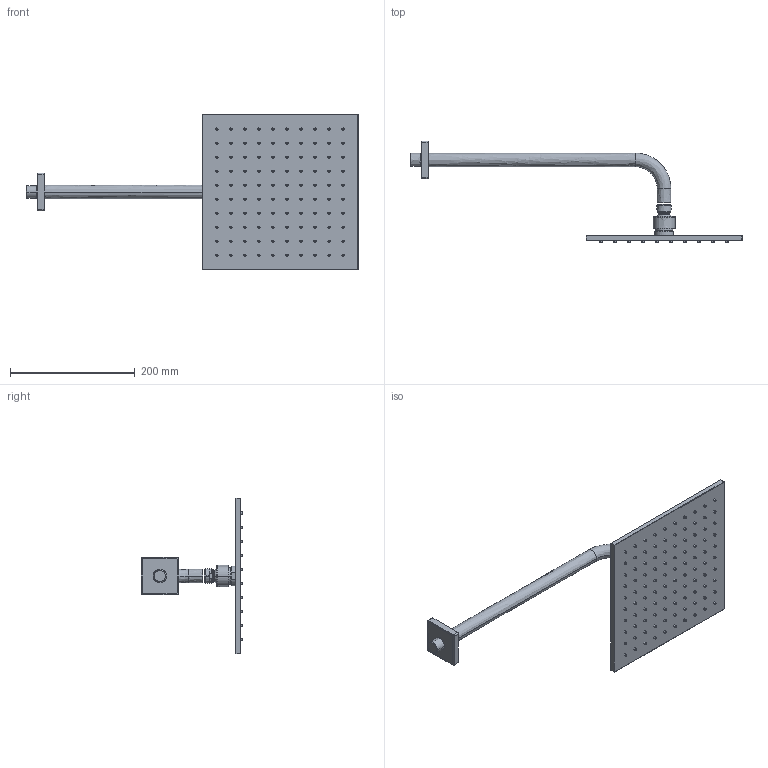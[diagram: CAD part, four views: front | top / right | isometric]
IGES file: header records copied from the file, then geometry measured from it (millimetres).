
Start section:  PTC IGES file: GPF4375600000A002_1.igs
Global section: file name: GPF4375600000A002_1.igs; native system: Creo Parametric by PTC Inc.; preprocessor: 2020281; author: PLMexport; organization: Unknown; date: 20211222.193733; units: millimetre
Bounding box: 533 x 163 x 250 mm (x, y, z)
Surface area: 256807.8 mm2 (no closed solid volume)
Topology: 0 solids, 0 shells, 385 faces, 1356 edges, 1356 vertices
Faces by surface type: bspline 385
